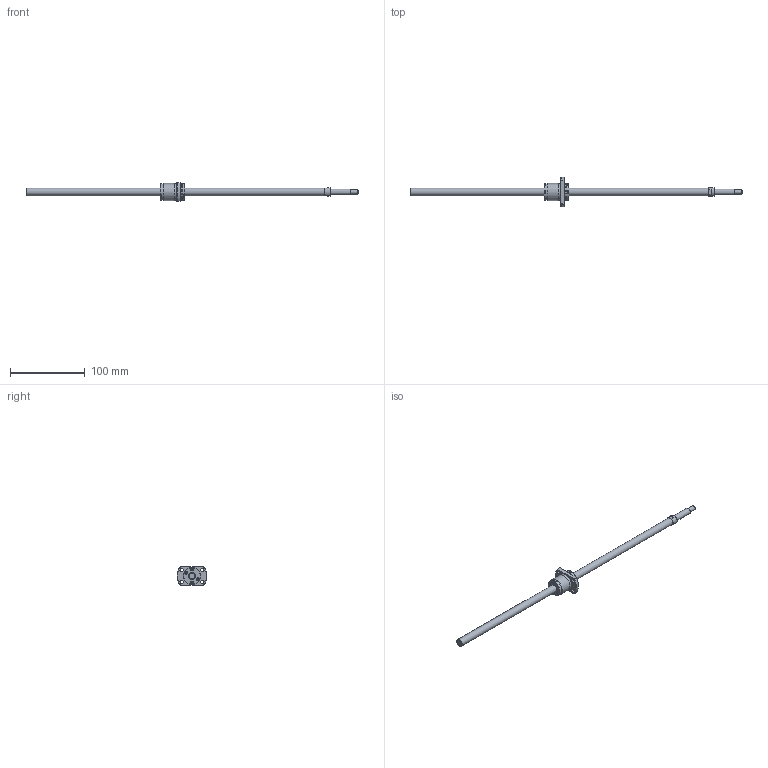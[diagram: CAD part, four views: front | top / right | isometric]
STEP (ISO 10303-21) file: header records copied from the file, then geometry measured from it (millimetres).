
FILE_DESCRIPTION(/* description */ ('STEP AP214'),/* implementation_level */ '2;1');
FILE_NAME(/* name */ 'SRT1015-396R445C7A0X(180Processing)',/* time_stamp */ '2026-08-06T15:11:28+02:00',/* author */ ('License CC BY-ND 4.0'),/* organization */ ('CADENAS'),/* preprocessor_version */ 'ST-DEVELOPER v20',/* originating_system */ 'PARTsolutions',/* authorisation */ ' ');
FILE_SCHEMA (('AUTOMOTIVE_DESIGN {1 0 10303 214 3 1 1}'));
Length unit declared in the file: millimetre
Products named in the file (3): SRT1015-396R445C7A0X(180Processing); SRT1015-396R470ACt7Processing70Shaft; SRT1015Nut
Assembly tree (2 placements, depth 2):
  SRT1015-396R445C7A0X(180Processing)
    SRT1015-396R470ACt7Processing70Shaft
    SRT1015Nut
Bounding box: 445 x 40 x 25 mm (x, y, z)
Volume: 46859.1 mm3; surface area: 19635.5 mm2
Topology: 2 solids, 2 shells, 150 faces, 360 edges, 236 vertices
Faces by surface type: plane 106, cylinder 32, cone 11, torus 1
Full cylindrical faces by diameter (mm): 3.8 x8, 4.5 x4, 6 x1, 8 x1, 10 x2, 11.5 x1, 22.45 x1, 22.5 x2, 23 x2
Entity records: 4267 total; most frequent: CARTESIAN_POINT 737, DIRECTION 718, ORIENTED_EDGE 654, EDGE_CURVE 327, AXIS2_PLACEMENT_3D 246, VERTEX_POINT 233, LINE 226, VECTOR 226
